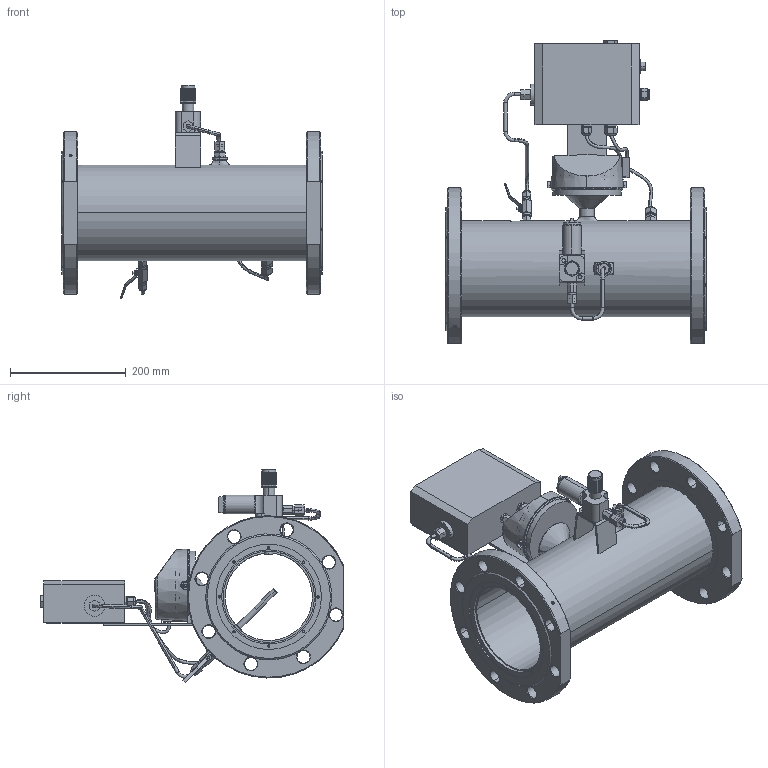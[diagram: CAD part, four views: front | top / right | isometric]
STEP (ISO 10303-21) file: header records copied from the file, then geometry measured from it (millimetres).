
FILE_DESCRIPTION((''),'2;1');
FILE_NAME('SG_SUPERFLOW_DY150_L_ASM','2020-12-23T',('solovki'),(''),'CREO PARAMETRIC BY PTC INC, 2018360','CREO PARAMETRIC BY PTC INC, 2018360','');
FILE_SCHEMA(('AUTOMOTIVE_DESIGN { 1 0 10303 214 1 1 1 1 }'));
Length unit declared in the file: millimetre
Products named in the file (29): 703_AF6; 704_AF4; 705_AF4; 706_AF1; 707_AF1; 708_AF3; 708_AF2; 709_AF3; 702_AF4_ASM; 710; 711; 712; 713; 701_AF0_ASM; 716; 717; 718; 719; 720; 721; 723; 724; 725; 726; 727; 722_ASM; 728; 729; SG_SUPERFLOW_DY150_L_ASM
Assembly tree (31 placements, depth 4):
  SG_SUPERFLOW_DY150_L_ASM
    701_AF0_ASM
      702_AF4_ASM
        703_AF6
        704_AF4
        705_AF4
        706_AF1
        707_AF1
        708_AF3
        708_AF2
        709_AF3
      710
      711  x2
      712
      713
    716
    717
    718
    719
    720
    721
    722_ASM
      723
      724
      725
      726
      727  x2
    711
    728
    729
Bounding box: 450 x 524.8 x 369.56 mm (x, y, z)
Volume: 6030298.5 mm3; surface area: 1099764.9 mm2
Topology: 28 solids, 62 shells, 1363 faces, 3344 edges, 2109 vertices
Faces by surface type: plane 536, cylinder 512, cone 201, torus 49, bspline 42, sphere 22, extrusion 1
Entity records: 63801 total; most frequent: CARTESIAN_POINT 11953, DIRECTION 6871, ORIENTED_EDGE 6176, PRESENTATION_STYLE_ASSIGNMENT 4501, STYLED_ITEM 4501, EDGE_CURVE 3168, CURVE_STYLE 3157, AXIS2_PLACEMENT_3D 2667
